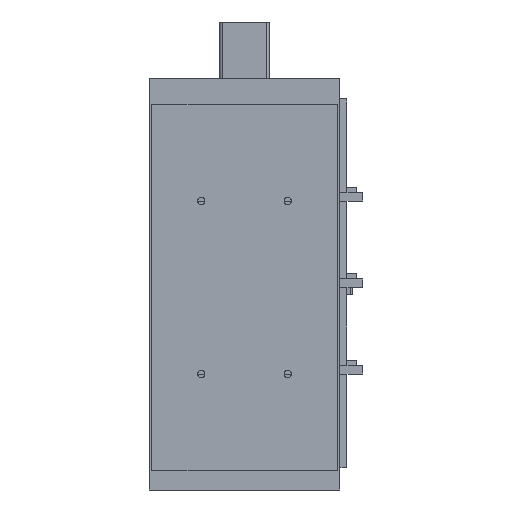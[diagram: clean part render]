
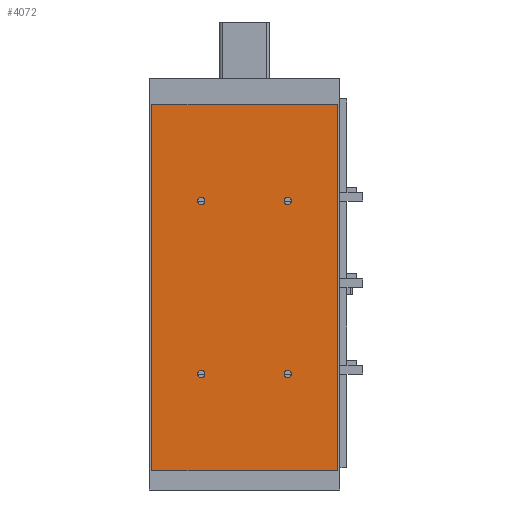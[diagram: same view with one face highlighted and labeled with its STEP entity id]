
A CAD part, front view. The second image highlights one B-rep face of the part: STEP entity #4072.
In plain terms, the highlighted planar face has unit normal (0, -1, 0).
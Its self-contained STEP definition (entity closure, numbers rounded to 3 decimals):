
#3162=CARTESIAN_POINT('',(-107.,0.0,424.));
#3163=VERTEX_POINT('',#3162);
#3170=CARTESIAN_POINT('',(107.,0.0,424.));
#3171=VERTEX_POINT('',#3170);
#3172=CARTESIAN_POINT('',(107.,0.0,424.));
#3173=DIRECTION('',(-1.0,0.0,0.0));
#3174=VECTOR('',#3173,214.);
#3175=LINE('',#3172,#3174);
#3176=EDGE_CURVE('',#3171,#3163,#3175,.T.);
#3506=CARTESIAN_POINT('',(107.,0.0,0.0));
#3507=VERTEX_POINT('',#3506);
#3514=CARTESIAN_POINT('',(-107.,0.0,0.0));
#3515=VERTEX_POINT('',#3514);
#3516=CARTESIAN_POINT('',(-107.,0.0,0.0));
#3517=DIRECTION('',(1.0,0.0,0.0));
#3518=VECTOR('',#3517,214.);
#3519=LINE('',#3516,#3518);
#3520=EDGE_CURVE('',#3515,#3507,#3519,.T.);
#3626=CARTESIAN_POINT('',(45.751,0.0,112.));
#3627=VERTEX_POINT('',#3626);
#3628=CARTESIAN_POINT('',(50.001,0.0,112.));
#3629=DIRECTION('',(0.0,1.0,0.0));
#3630=DIRECTION('',(1.0,0.0,0.0));
#3631=AXIS2_PLACEMENT_3D('',#3628,#3629,#3630);
#3632=CIRCLE('',#3631,4.25);
#3633=EDGE_CURVE('',#3627,#3627,#3632,.T.);
#3667=CARTESIAN_POINT('',(-54.249,0.0,112.));
#3668=VERTEX_POINT('',#3667);
#3669=CARTESIAN_POINT('',(-49.999,0.0,112.));
#3670=DIRECTION('',(0.0,1.0,0.0));
#3671=DIRECTION('',(1.0,0.0,0.0));
#3672=AXIS2_PLACEMENT_3D('',#3669,#3670,#3671);
#3673=CIRCLE('',#3672,4.25);
#3674=EDGE_CURVE('',#3668,#3668,#3673,.T.);
#3846=CARTESIAN_POINT('',(45.751,0.0,312.0));
#3847=VERTEX_POINT('',#3846);
#3848=CARTESIAN_POINT('',(50.001,0.0,312.0));
#3849=DIRECTION('',(0.0,1.0,0.0));
#3850=DIRECTION('',(1.0,0.0,0.0));
#3851=AXIS2_PLACEMENT_3D('',#3848,#3849,#3850);
#3852=CIRCLE('',#3851,4.25);
#3853=EDGE_CURVE('',#3847,#3847,#3852,.T.);
#3956=CARTESIAN_POINT('',(-54.249,0.0,312.0));
#3957=VERTEX_POINT('',#3956);
#3958=CARTESIAN_POINT('',(-49.999,0.0,312.0));
#3959=DIRECTION('',(0.0,1.0,0.0));
#3960=DIRECTION('',(1.0,0.0,0.0));
#3961=AXIS2_PLACEMENT_3D('',#3958,#3959,#3960);
#3962=CIRCLE('',#3961,4.25);
#3963=EDGE_CURVE('',#3957,#3957,#3962,.T.);
#3983=CARTESIAN_POINT('',(107.,0.0,0.0));
#3984=DIRECTION('',(0.0,0.0,1.0));
#3985=VECTOR('',#3984,424.);
#3986=LINE('',#3983,#3985);
#3987=EDGE_CURVE('',#3507,#3171,#3986,.T.);
#4005=CARTESIAN_POINT('',(-107.,0.0,0.0));
#4006=DIRECTION('',(0.0,0.0,1.0));
#4007=VECTOR('',#4006,424.);
#4008=LINE('',#4005,#4007);
#4009=EDGE_CURVE('',#3515,#3163,#4008,.T.);
#4049=CARTESIAN_POINT('',(107.,0.0,0.0));
#4050=DIRECTION('',(0.0,-1.0,0.0));
#4051=DIRECTION('',(0.0,0.0,-1.0));
#4052=AXIS2_PLACEMENT_3D('',#4049,#4050,#4051);
#4053=PLANE('',#4052);
#4054=ORIENTED_EDGE('',*,*,#3176,.T.);
#4055=ORIENTED_EDGE('',*,*,#4009,.F.);
#4056=ORIENTED_EDGE('',*,*,#3520,.T.);
#4057=ORIENTED_EDGE('',*,*,#3987,.T.);
#4058=EDGE_LOOP('',(#4054,#4055,#4056,#4057));
#4059=FACE_OUTER_BOUND('',#4058,.T.);
#4060=ORIENTED_EDGE('',*,*,#3633,.T.);
#4061=EDGE_LOOP('',(#4060));
#4062=FACE_BOUND('',#4061,.T.);
#4063=ORIENTED_EDGE('',*,*,#3674,.T.);
#4064=EDGE_LOOP('',(#4063));
#4065=FACE_BOUND('',#4064,.T.);
#4066=ORIENTED_EDGE('',*,*,#3853,.T.);
#4067=EDGE_LOOP('',(#4066));
#4068=FACE_BOUND('',#4067,.T.);
#4069=ORIENTED_EDGE('',*,*,#3963,.T.);
#4070=EDGE_LOOP('',(#4069));
#4071=FACE_BOUND('',#4070,.T.);
#4072=ADVANCED_FACE('',(#4059,#4062,#4065,#4068,#4071),#4053,.T.);
